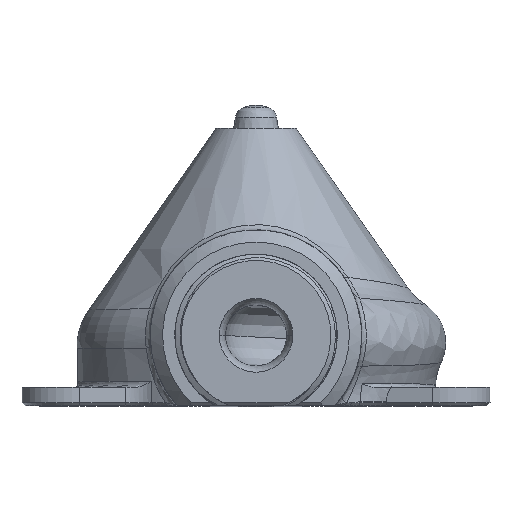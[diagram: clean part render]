
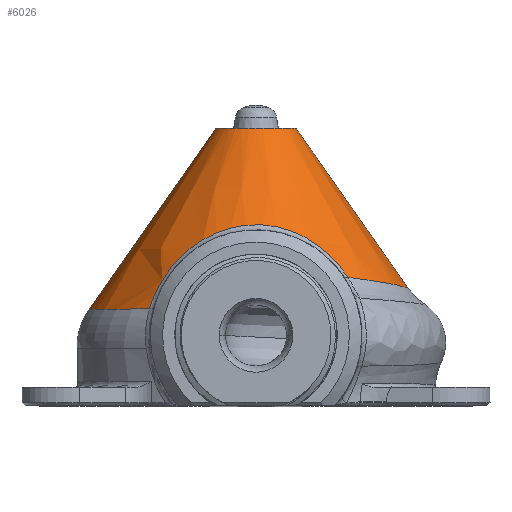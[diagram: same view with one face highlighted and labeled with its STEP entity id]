
A CAD part, top view. The second image highlights one B-rep face of the part: STEP entity #6026.
In plain terms, the highlighted conical face has half-angle 35 degrees and reference radius 16.853 mm.
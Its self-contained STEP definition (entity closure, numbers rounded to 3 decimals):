
#989=CARTESIAN_POINT('',(0.002,12.867,-45.));
#990=DIRECTION('',(0.,1.,0.));
#991=DIRECTION('',(-1.,0.,0.));
#992=AXIS2_PLACEMENT_3D('',#989,#990,#991);
#994=CARTESIAN_POINT('',(24.822,16.233,-45.));
#995=CARTESIAN_POINT('',(24.822,16.233,-44.639));
#996=CARTESIAN_POINT('',(24.8,16.241,-43.947));
#997=CARTESIAN_POINT('',(24.722,16.27,-43.011));
#998=CARTESIAN_POINT('',(24.611,16.308,-42.16));
#999=CARTESIAN_POINT('',(24.477,16.353,-41.387));
#1000=CARTESIAN_POINT('',(24.329,16.4,-40.684));
#1001=CARTESIAN_POINT('',(24.173,16.447,-40.047));
#1002=CARTESIAN_POINT('',(24.012,16.494,-39.466));
#1003=CARTESIAN_POINT('',(23.845,16.541,-38.916));
#1004=CARTESIAN_POINT('',(23.664,16.59,-38.375));
#1005=CARTESIAN_POINT('',(23.469,16.641,-37.834));
#1006=CARTESIAN_POINT('',(23.259,16.694,-37.297));
#1007=CARTESIAN_POINT('',(23.037,16.748,-36.767));
#1008=CARTESIAN_POINT('',(22.801,16.802,-36.241));
#1009=CARTESIAN_POINT('',(22.554,16.856,-35.722));
#1010=CARTESIAN_POINT('',(22.294,16.912,-35.21));
#1011=CARTESIAN_POINT('',(22.022,16.967,-34.703));
#1012=CARTESIAN_POINT('',(21.736,17.023,-34.2));
#1013=CARTESIAN_POINT('',(21.436,17.08,-33.702));
#1014=CARTESIAN_POINT('',(21.123,17.136,-33.208));
#1015=CARTESIAN_POINT('',(20.799,17.192,-32.722));
#1016=CARTESIAN_POINT('',(20.463,17.248,-32.245));
#1017=CARTESIAN_POINT('',(20.117,17.304,-31.777));
#1018=CARTESIAN_POINT('',(19.76,17.36,-31.318));
#1019=CARTESIAN_POINT('',(19.393,17.416,-30.869));
#1020=CARTESIAN_POINT('',(19.016,17.471,-30.428));
#1021=CARTESIAN_POINT('',(18.619,17.528,-29.987));
#1022=CARTESIAN_POINT('',(18.185,17.589,-29.53));
#1023=CARTESIAN_POINT('',(17.694,17.657,-29.04));
#1024=CARTESIAN_POINT('',(17.128,17.734,-28.512));
#1025=CARTESIAN_POINT('',(16.481,17.821,-27.948));
#1026=CARTESIAN_POINT('',(15.737,17.921,-27.352));
#1027=CARTESIAN_POINT('',(15.226,17.991,-26.978));
#1028=CARTESIAN_POINT('',(14.962,18.027,-26.794));
#1030=CARTESIAN_POINT('',(14.962,18.027,-26.794));
#1031=CARTESIAN_POINT('',(14.613,18.563,-26.993));
#1032=CARTESIAN_POINT('',(13.872,19.59,-27.318));
#1033=CARTESIAN_POINT('',(12.658,20.982,-27.619));
#1034=CARTESIAN_POINT('',(11.298,22.276,-27.774));
#1035=CARTESIAN_POINT('',(9.798,23.448,-27.811));
#1036=CARTESIAN_POINT('',(8.143,24.487,-27.763));
#1037=CARTESIAN_POINT('',(6.335,25.363,-27.664));
#1038=CARTESIAN_POINT('',(4.396,26.036,-27.554));
#1039=CARTESIAN_POINT('',(2.366,26.47,-27.467));
#1040=CARTESIAN_POINT('',(0.292,26.642,
-27.43));
#1041=CARTESIAN_POINT('',(-1.78,26.546,
-27.452));
#1042=CARTESIAN_POINT('',(-3.802,26.19,
-27.525));
#1043=CARTESIAN_POINT('',(-5.729,25.599,
-27.63));
#1044=CARTESIAN_POINT('',(-7.531,24.809,
-27.734));
#1045=CARTESIAN_POINT('',(-9.194,23.853,
-27.803));
#1046=CARTESIAN_POINT('',(-10.719,22.755,
-27.803));
#1047=CARTESIAN_POINT('',(-12.118,21.526,
-27.701));
#1048=CARTESIAN_POINT('',(-13.399,20.165,
-27.463));
#1049=CARTESIAN_POINT('',(-14.569,18.661,
-27.047));
#1050=CARTESIAN_POINT('',(-15.65,16.966,
-26.403));
#1051=CARTESIAN_POINT('',(-16.649,14.96,
-25.409));
#1052=CARTESIAN_POINT('',(-17.154,13.581,
-24.572));
#1053=CARTESIAN_POINT('',(-17.373,12.867,
-24.103));
#1055=DIRECTION('',(-0.574,0.819,0.));
#1056=VECTOR('',#1055,31.887);
#1057=CARTESIAN_POINT('',(24.822,16.233,-45.));
#1058=LINE('',#1057,#1056);
#1059=DIRECTION('',(0.574,0.819,0.));
#1060=VECTOR('',#1059,35.997);
#1061=CARTESIAN_POINT('',(-27.175,12.867,
-45.));
#1062=LINE('',#1061,#1060);
#1084=CARTESIAN_POINT('',(0.002,42.354,-45.));
#1085=DIRECTION('',(0.,-1.,0.));
#1086=DIRECTION('',(1.,0.,0.));
#1087=AXIS2_PLACEMENT_3D('',#1084,#1085,#1086);
#3548=CARTESIAN_POINT('',(6.532,42.354,-45.));
#3549=CARTESIAN_POINT('',(-6.528,42.354,-45.));
#3550=VERTEX_POINT('',#3548);
#3551=VERTEX_POINT('',#3549);
#3556=CARTESIAN_POINT('',(-27.175,12.867,
-45.));
#3557=VERTEX_POINT('',#3556);
#3558=CARTESIAN_POINT('',(24.822,16.233,-45.));
#3559=VERTEX_POINT('',#3558);
#3733=CARTESIAN_POINT('',(-17.373,12.867,
-24.103));
#3734=VERTEX_POINT('',#3733);
#3776=VERTEX_POINT('',#1030);
#6008=CARTESIAN_POINT('',(0.002,27.61,-45.));
#6009=DIRECTION('',(0.,-1.,0.));
#6010=DIRECTION('',(-1.,0.,0.));
#6011=AXIS2_PLACEMENT_3D('',#6008,#6009,#6010);
#6012=CONICAL_SURFACE('',#6011,16.853,35.);
#6013=ORIENTED_EDGE('',*,*,#5997,.F.);
#6015=ORIENTED_EDGE('',*,*,#6014,.T.);
#6017=ORIENTED_EDGE('',*,*,#6016,.F.);
#6019=ORIENTED_EDGE('',*,*,#6018,.F.);
#6021=ORIENTED_EDGE('',*,*,#6020,.T.);
#6023=ORIENTED_EDGE('',*,*,#6022,.T.);
#6024=EDGE_LOOP('',(#6013,#6015,#6017,#6019,#6021,#6023));
#6025=FACE_OUTER_BOUND('',#6024,.F.);
#6026=ADVANCED_FACE('',(#6025),#6012,.T.);
#993=CIRCLE('',#992,27.177);
#1029=B_SPLINE_CURVE_WITH_KNOTS('',3,(#994,#995,#996,#997,#998,#999,#1000,#1001,
#1002,#1003,#1004,#1005,#1006,#1007,#1008,#1009,#1010,#1011,#1012,#1013,#1014,
#1015,#1016,#1017,#1018,#1019,#1020,#1021,#1022,#1023,#1024,#1025,#1026,#1027,
#1028),.UNSPECIFIED.,.F.,.F.,(4,1,1,1,1,1,1,1,1,1,1,1,1,1,1,1,1,1,1,1,1,1,1,1,1,
1,1,1,1,1,1,1,4),(0.,0.031,0.063,0.094,0.125,0.156,0.188,
0.219,0.25,0.281,0.313,0.344,0.375,0.406,0.438,
0.469,0.5,0.531,0.563,0.594,0.625,0.656,0.688,
0.719,0.75,0.781,0.813,0.844,0.875,0.906,0.938,
0.969,1.),.UNSPECIFIED.);
#1054=B_SPLINE_CURVE_WITH_KNOTS('',3,(#1030,#1031,#1032,#1033,#1034,#1035,#1036,
#1037,#1038,#1039,#1040,#1041,#1042,#1043,#1044,#1045,#1046,#1047,#1048,#1049,
#1050,#1051,#1052,#1053),.UNSPECIFIED.,.F.,.F.,(4,1,1,1,1,1,1,1,1,1,1,1,1,1,1,1,
1,1,1,1,1,4),(0.,0.048,0.095,0.143,
0.19,0.238,0.286,0.333,
0.381,0.429,0.476,0.524,
0.571,0.619,0.667,0.714,
0.762,0.81,0.857,0.905,
0.952,1.),.UNSPECIFIED.);
#1088=CIRCLE('',#1087,6.53);
#5997=EDGE_CURVE('',#3557,#3734,#993,.T.);
#6014=EDGE_CURVE('',#3557,#3551,#1062,.T.);
#6016=EDGE_CURVE('',#3550,#3551,#1088,.T.);
#6018=EDGE_CURVE('',#3559,#3550,#1058,.T.);
#6020=EDGE_CURVE('',#3559,#3776,#1029,.T.);
#6022=EDGE_CURVE('',#3776,#3734,#1054,.T.);
